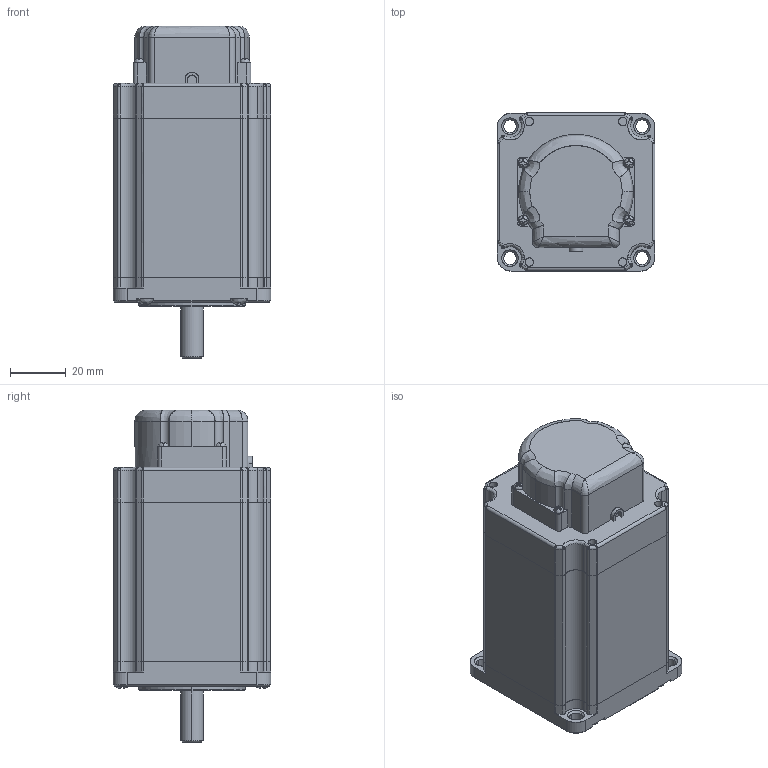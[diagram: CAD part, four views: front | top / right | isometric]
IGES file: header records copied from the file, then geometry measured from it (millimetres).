
Start section: SolidWorks IGES file using analytic representation for surfaces
Global section: file name: C:\Users\render\Documents\CAD Files\TamagawaMotors\TBL-V-Series\TS4747\TS4747.IGS; native system: SolidWorks 2009; preprocessor: SolidWorks 2009; author: render; date: 100721.142316; units: millimetre
Bounding box: 56.4 x 56.4 x 118.6 mm (x, y, z)
Surface area: 44689.9 mm2 (no closed solid volume)
Topology: 0 solids, 0 shells, 507 faces, 5926 edges, 5916 vertices
Faces by surface type: revolution 256, bspline 251
